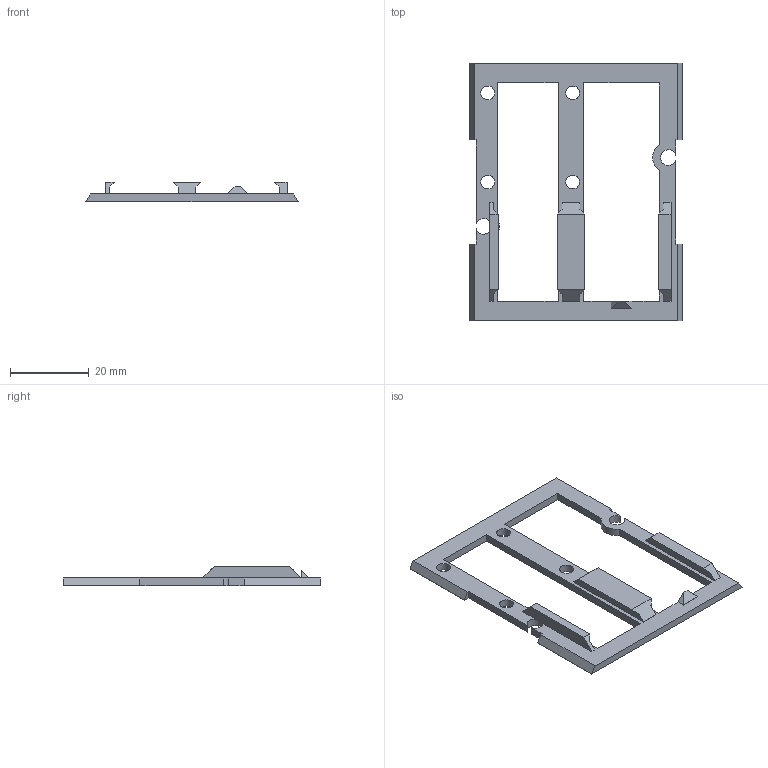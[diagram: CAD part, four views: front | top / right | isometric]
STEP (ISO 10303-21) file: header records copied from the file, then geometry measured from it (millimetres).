
FILE_DESCRIPTION(/* description */ ('Alibre Inc.'),/* implementation_level */ '2;1');
FILE_NAME(/* name */ 'export0',/* time_stamp */ '2018-08-03T14:54:58-04:00',/* author */ (''),/* organization */ (''),/* preprocessor_version */ 'ST-DEVELOPER v17',/* originating_system */ 'Alibre',/* authorisation */ '');
FILE_SCHEMA (('AUTOMOTIVE_DESIGN'));
Length unit declared in the file: millimetre
Bounding box: 54 x 65.5 x 4.99 mm (x, y, z)
Volume: 3422.3 mm3; surface area: 4647.5 mm2
Topology: 1 solids, 1 shells, 70 faces, 200 edges, 134 vertices
Faces by surface type: plane 61, cylinder 8, bspline 1
Full cylindrical faces by diameter (mm): 3.5 x4
Entity records: 2194 total; most frequent: CARTESIAN_POINT 482, ORIENTED_EDGE 384, DIRECTION 261, EDGE_CURVE 192, VECTOR 158, LINE 158, VERTEX_POINT 130, EDGE_LOOP 88
